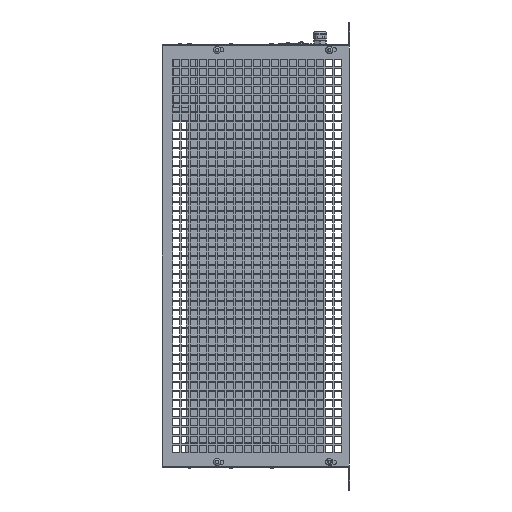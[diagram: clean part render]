
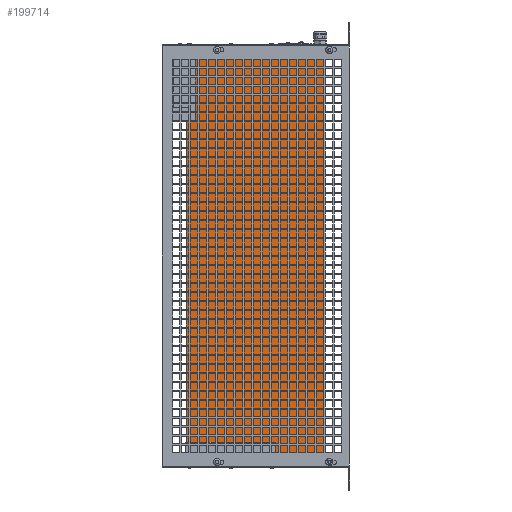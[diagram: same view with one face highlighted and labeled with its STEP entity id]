
A CAD part, left-side view. The second image highlights one B-rep face of the part: STEP entity #199714.
In plain terms, the highlighted planar face has unit normal (-1, 0, 0).
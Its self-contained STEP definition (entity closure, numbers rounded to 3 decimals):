
#12739=PLANE('',#209094);
#21451=FACE_OUTER_BOUND('',#34175,.T.);
#34175=EDGE_LOOP('',(#180805,#180806,#180807,#180808,#180809,#180810));
#41490=LINE('',#268696,#67016);
#59763=LINE('',#305484,#85289);
#59764=LINE('',#305486,#85290);
#59765=LINE('',#305488,#85291);
#59766=LINE('',#305489,#85292);
#59767=LINE('',#305490,#85293);
#67016=VECTOR('',#217588,10.);
#85289=VECTOR('',#252759,10.);
#85290=VECTOR('',#252760,10.);
#85291=VECTOR('',#252761,10.);
#85292=VECTOR('',#252762,10.);
#85293=VECTOR('',#252763,10.);
#93274=VERTEX_POINT('',#268693);
#93275=VERTEX_POINT('',#268695);
#103232=VERTEX_POINT('',#305482);
#103233=VERTEX_POINT('',#305483);
#103234=VERTEX_POINT('',#305485);
#103235=VERTEX_POINT('',#305487);
#110861=EDGE_CURVE('',#93274,#93275,#41490,.T.);
#129259=EDGE_CURVE('',#103232,#103233,#59763,.T.);
#129260=EDGE_CURVE('',#103234,#103232,#59764,.T.);
#129261=EDGE_CURVE('',#103235,#103234,#59765,.T.);
#129262=EDGE_CURVE('',#93275,#103235,#59766,.T.);
#129263=EDGE_CURVE('',#93274,#103233,#59767,.T.);
#180805=ORIENTED_EDGE('',*,*,#129259,.F.);
#180806=ORIENTED_EDGE('',*,*,#129260,.F.);
#180807=ORIENTED_EDGE('',*,*,#129261,.F.);
#180808=ORIENTED_EDGE('',*,*,#129262,.F.);
#180809=ORIENTED_EDGE('',*,*,#110861,.F.);
#180810=ORIENTED_EDGE('',*,*,#129263,.T.);
#199714=ADVANCED_FACE('',(#21451),#12739,.F.);
#209094=AXIS2_PLACEMENT_3D('',#305481,#252757,#252758);
#217588=DIRECTION('',(0.,-1.,0.));
#252757=DIRECTION('center_axis',(1.,0.,0.));
#252758=DIRECTION('ref_axis',(0.,0.,
1.));
#252759=DIRECTION('',(0.,1.,0.));
#252760=DIRECTION('',(0.,0.,1.));
#252761=DIRECTION('',(0.,1.,0.));
#252762=DIRECTION('',(0.,0.,-1.));
#252763=DIRECTION('',(0.,0.,-1.));
#268693=CARTESIAN_POINT('',(-72.428,208.941,7.5));
#268695=CARTESIAN_POINT('',(-72.428,25.059,7.5));
#268696=CARTESIAN_POINT('',(-72.428,117.,7.5));
#305481=CARTESIAN_POINT('Origin',(-72.428,117.,-262.5));
#305482=CARTESIAN_POINT('',(-72.428,89.3,-511.));
#305483=CARTESIAN_POINT('',(-72.428,208.941,-511.));
#305484=CARTESIAN_POINT('',(-72.428,133.15,-511.));
#305485=CARTESIAN_POINT('',(-72.428,89.3,-532.5));
#305486=CARTESIAN_POINT('',(-72.428,89.3,-394.875));
#305487=CARTESIAN_POINT('',(-72.428,25.059,-532.5));
#305488=CARTESIAN_POINT('',(-72.428,117.,-532.5));
#305489=CARTESIAN_POINT('',(-72.428,25.059,-262.5));
#305490=CARTESIAN_POINT('',(-72.428,208.941,-262.5));
